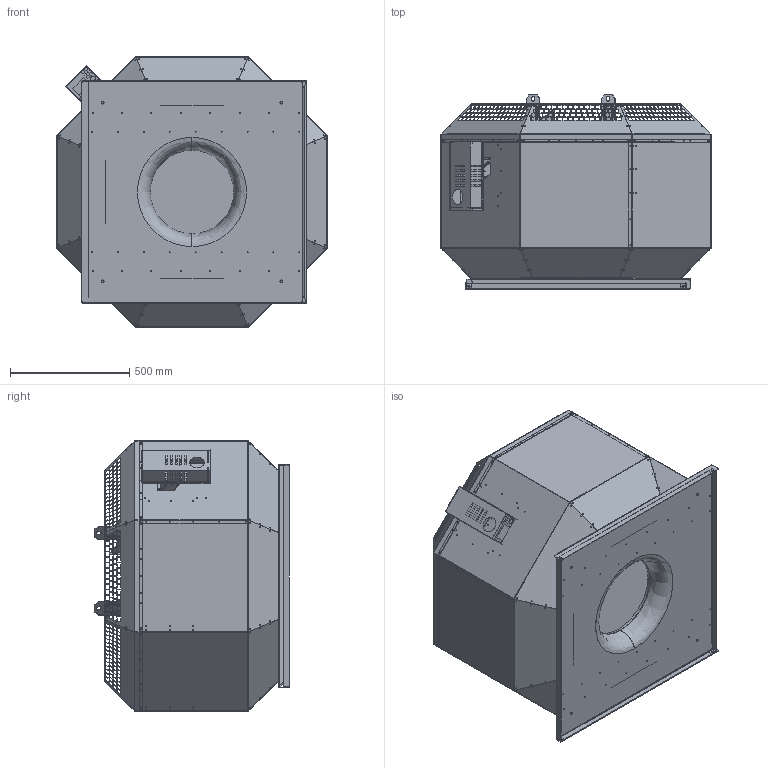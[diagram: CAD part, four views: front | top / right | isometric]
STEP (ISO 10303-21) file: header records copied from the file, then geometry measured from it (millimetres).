
FILE_DESCRIPTION (( 'STEP AP203' ), '1' );
FILE_NAME ('144885-01_DVN560D430_step.step', '2018-07-13T13:39:31', ( '' ), ( '' ), 'SwSTEP 2.0', 'SolidWorks 2017', '' );
FILE_SCHEMA (( 'CONFIG_CONTROL_DESIGN' ));
Length unit declared in the file: millimetre
Products named in the file (1): 144885-01_DVN560D430_step
Bounding box: 1136 x 816.3 x 1136 mm (x, y, z)
Surface area: 9817201 mm2 (no closed solid volume)
Topology: 0 solids, 53 shells, 1876 faces, 16626 edges, 13832 vertices
Faces by surface type: plane 1483, cylinder 381, bspline 6, torus 6
Entity records: 156843 total; most frequent: CARTESIAN_POINT 33557, DIRECTION 22361, ORIENTED_EDGE 20557, EDGE_CURVE 16626, VECTOR 14365, LINE 14365, VERTEX_POINT 13832, EDGE_LOOP 5521
